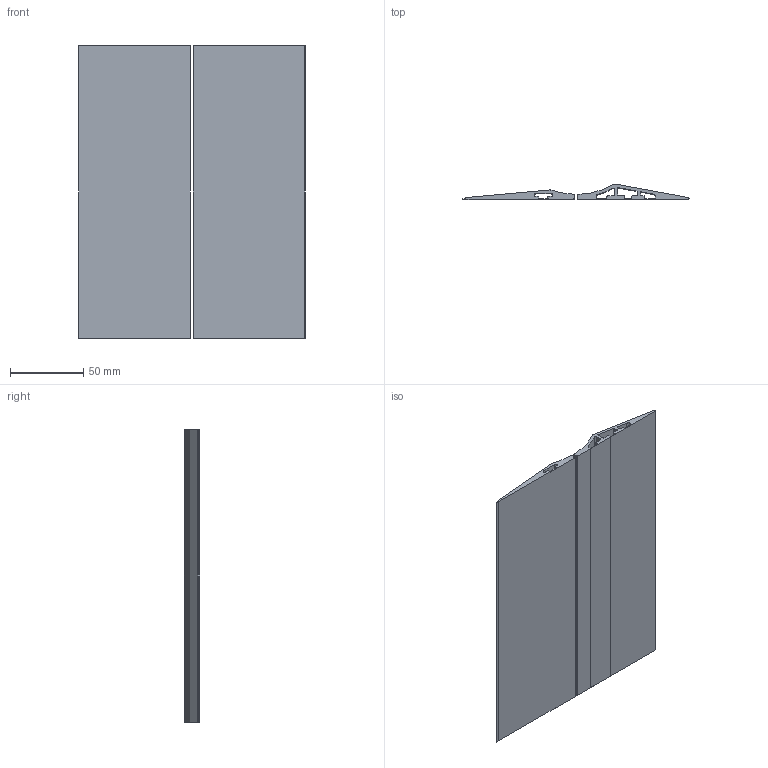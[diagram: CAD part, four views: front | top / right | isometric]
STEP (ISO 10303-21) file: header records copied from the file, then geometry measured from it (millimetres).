
FILE_DESCRIPTION(/* description */ ('STEP AP203'),/* implementation_level */ '2;1');
FILE_NAME(/* name */ '02081ALH.0800',/* time_stamp */ '2026-01-27T14:25:30+01:00',/* author */ ('License CC BY-ND 4.0'),/* organization */ ('CADENAS'),/* preprocessor_version */ 'ST-DEVELOPER v20',/* originating_system */ 'PARTsolutions',/* authorisation */ ' ');
FILE_SCHEMA (('CONFIG_CONTROL_DESIGN'));
Length unit declared in the file: millimetre
Products named in the file (3): 02081ALH.0800; 02081ALH.08001; 02081ALH.08002
Assembly tree (2 placements, depth 2):
  02081ALH.0800
    02081ALH.08001
    02081ALH.08002
Bounding box: 154.38 x 10.56 x 200 mm (x, y, z)
Volume: 112860 mm3; surface area: 91240.9 mm2
Topology: 2 solids, 2 shells, 74 faces, 210 edges, 140 vertices
Faces by surface type: plane 45, cylinder 29
Entity records: 2487 total; most frequent: CARTESIAN_POINT 427, DIRECTION 422, ORIENTED_EDGE 420, EDGE_CURVE 210, LINE 152, VECTOR 152, VERTEX_POINT 140, AXIS2_PLACEMENT_3D 135
